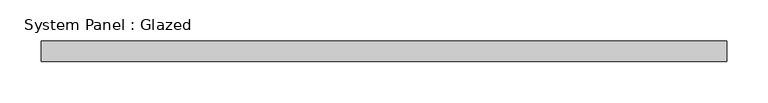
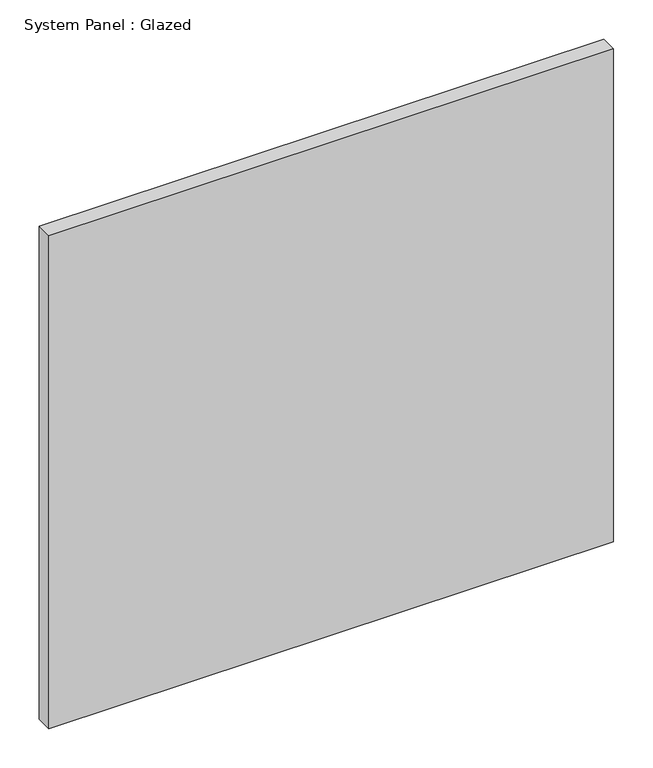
"""IFC4 building model written with IfcOpenShell, lengths in millimetres: plate geometry, System Panel : Glazed."""

from ifc_helpers import new_model, si_unit, origin, origin_with_axes, place, context, project, spatial, polyline, outline, extrude, source, transform, mapped, element, save


def system_panel_glazed_af863dd0(model_context):
    return source(origin(), model_context, "Body", "SweptSolid", [
        extrude(outline(polyline([(417.7455708, -44.45), (-417.7455708, -44.45), (-417.7455708, -19.05), (417.7455708, -19.05), (417.7455708, -44.45)])), origin_with_axes(), (0.0, 0.0, 1.0), 770.6690025),
    ])


if __name__ == "__main__":
    model = new_model("IFC4")
    model_context = context("Model", 3, world=origin())
    ifc_project = project(units=[si_unit("LENGTHUNIT", "METRE", prefix="MILLI")], contexts=[model_context])
    site = spatial("IfcSite", under=ifc_project)
    building = spatial("IfcBuilding", under=site)
    placement = place(None, origin())
    system_panel_glazed_shape = system_panel_glazed_af863dd0(model_context)
    element("IfcPlate", 1, ObjectType="System Panel : Glazed", at=placement, inside=building, context=model_context, shape_type="MappedRepresentation", body=[
        mapped(system_panel_glazed_shape, transform((0.0, 0.0, 0.0), x_axis=(1.0, 0.0, 0.0), y_axis=(0.0, 1.0, 0.0), z_axis=(0.0, 0.0, 1.0))),
    ])
    save(model, "model.ifc")
